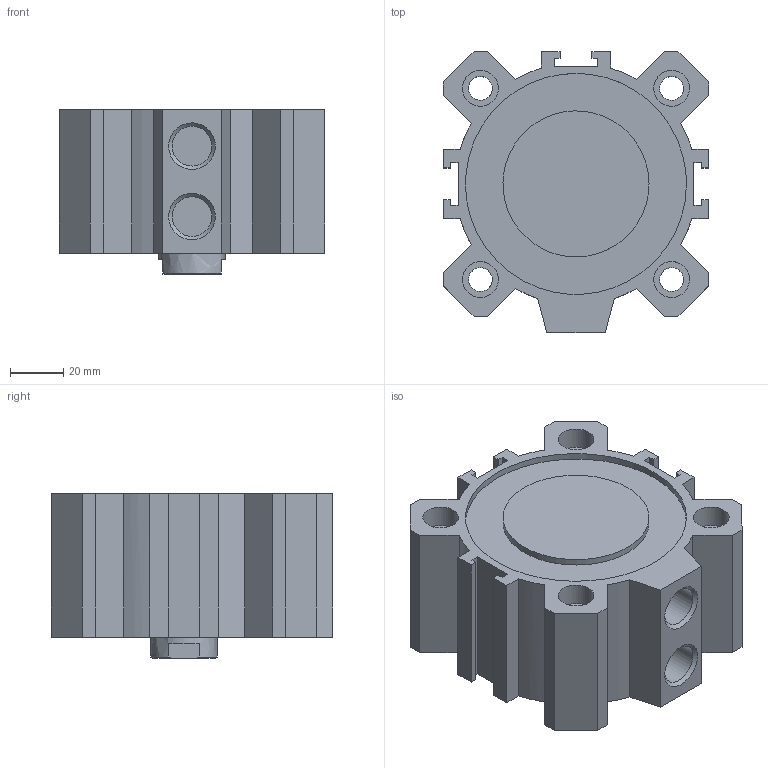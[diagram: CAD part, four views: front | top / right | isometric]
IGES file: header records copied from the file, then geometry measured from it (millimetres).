
Global section: file name: 1512_80_0010; native system: Autodesk Inventor 2014; preprocessor: unknown; author: A. Manieri; date: 20160907.144010; units: millimetre
Bounding box: 100 x 106 x 62 mm (x, y, z)
Volume: 377171.6 mm3; surface area: 89930.6 mm2
Topology: 2 solids, 2 shells, 118 faces, 302 edges, 206 vertices
Faces by surface type: bspline 118
